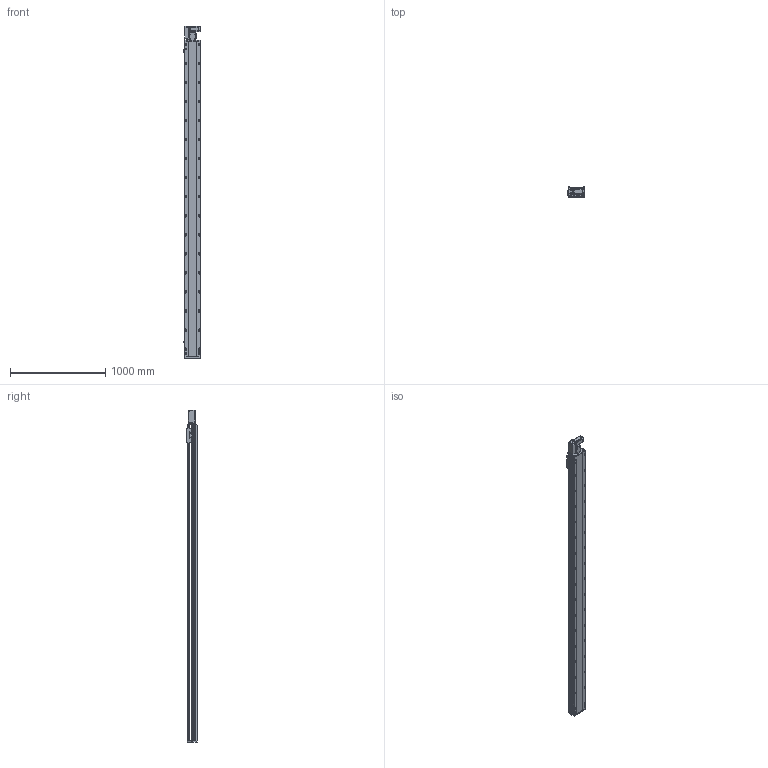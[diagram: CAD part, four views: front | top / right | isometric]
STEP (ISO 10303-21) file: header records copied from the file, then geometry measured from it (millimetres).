
FILE_DESCRIPTION (( 'STEP AP214' ), '1' );
FILE_NAME ('RTB17S-XX-3050-L-M40-C4.STEP', '2025-12-11T06:03:57', ( '' ), ( '' ), 'SwSTEP 2.0', 'SolidWorks 2018', '' );
FILE_SCHEMA (( 'AUTOMOTIVE_DESIGN' ));
Length unit declared in the file: millimetre
Products named in the file (14): RTB17-R-011菁釱^RTB17S-XX-XX-L-M40-C4; RTB17S-XX-3050-L-M40-C4; RTB17S-L-001耜醱啣^RTB17S-XX-XX-L-M40-C4; RMP17S-L-014-T20--々湍釱^RTB17S-L-々湍釱蚾饜-400W_RTB17S-XX-XX-L-M40-C4; RTB17S-L-々湍釱蚾饜-400W^RTB17S-XX-XX-L-M40-C4; RTB14-L-017P^RTB17S-L-々湍釱蚾饜-400W_RTB17S-XX-XX-L-M40-C4; RTB17S-L-007奻裔^RTB17S-XX-XX-L-M40-C4; RTB17S-L-004佪裝蹟譫蟀諉釱^RTB17S-XX-XX-L-M40-C4; OMRON EE-SX672 传感器^RTB17S-XX-XX-L-M40-C4; 400W侜督萇儂^RTB17S-XX-XX-L-M40-C4; RTB14-L-018P^RTB17S-L-々湍釱蚾饜-400W_RTB17S-XX-XX-L-M40-C4; RTB14-L-008-M20--萇儂啣^RTB17S-L-々湍釱蚾饜-400W_RTB17S-XX-XX-L-M40-C4; RTB14-L-005P--轴承塑胶压盖^RTB17S-L-皮带座装配-400W_RTB17S-XX-XX-L-M40-C4; RTH13-BL-012覜茼え俋离^RTB17S-XX-XX-L-M40-C4
Assembly tree (16 placements, depth 3):
  RTB17S-XX-3050-L-M40-C4
    RTB17-R-011菁釱^RTB17S-XX-XX-L-M40-C4
    RTB17S-L-007奻裔^RTB17S-XX-XX-L-M40-C4
    OMRON EE-SX672 传感器^RTB17S-XX-XX-L-M40-C4  x3
    RTB17S-L-001耜醱啣^RTB17S-XX-XX-L-M40-C4
    400W侜督萇儂^RTB17S-XX-XX-L-M40-C4
    RTB17S-L-004佪裝蹟譫蟀諉釱^RTB17S-XX-XX-L-M40-C4
    RTH13-BL-012覜茼え俋离^RTB17S-XX-XX-L-M40-C4
    RTB17S-L-々湍釱蚾饜-400W^RTB17S-XX-XX-L-M40-C4
      RMP17S-L-014-T20--々湍釱^RTB17S-L-々湍釱蚾饜-400W_RTB17S-XX-XX-L-M40-C4
      RTB14-L-005P--轴承塑胶压盖^RTB17S-L-皮带座装配-400W_RTB17S-XX-XX-L-M40-C4
      RTB14-L-008-M20--萇儂啣^RTB17S-L-々湍釱蚾饜-400W_RTB17S-XX-XX-L-M40-C4
      RTB14-L-017P^RTB17S-L-々湍釱蚾饜-400W_RTB17S-XX-XX-L-M40-C4  x2
      RTB14-L-018P^RTB17S-L-々湍釱蚾饜-400W_RTB17S-XX-XX-L-M40-C4
Bounding box: 186 x 108 x 3491 mm (x, y, z)
Volume: 29086677.9 mm3; surface area: 3322910.8 mm2
Topology: 15 solids, 15 shells, 2381 faces, 6681 edges, 4365 vertices
Faces by surface type: plane 1090, cylinder 843, bspline 301, cone 139, torus 8
Entity records: 71081 total; most frequent: CARTESIAN_POINT 20286, ORIENTED_EDGE 10206, DIRECTION 9386, EDGE_CURVE 5103, VERTEX_POINT 3353, AXIS2_PLACEMENT_3D 3283, LINE 2820, VECTOR 2820
